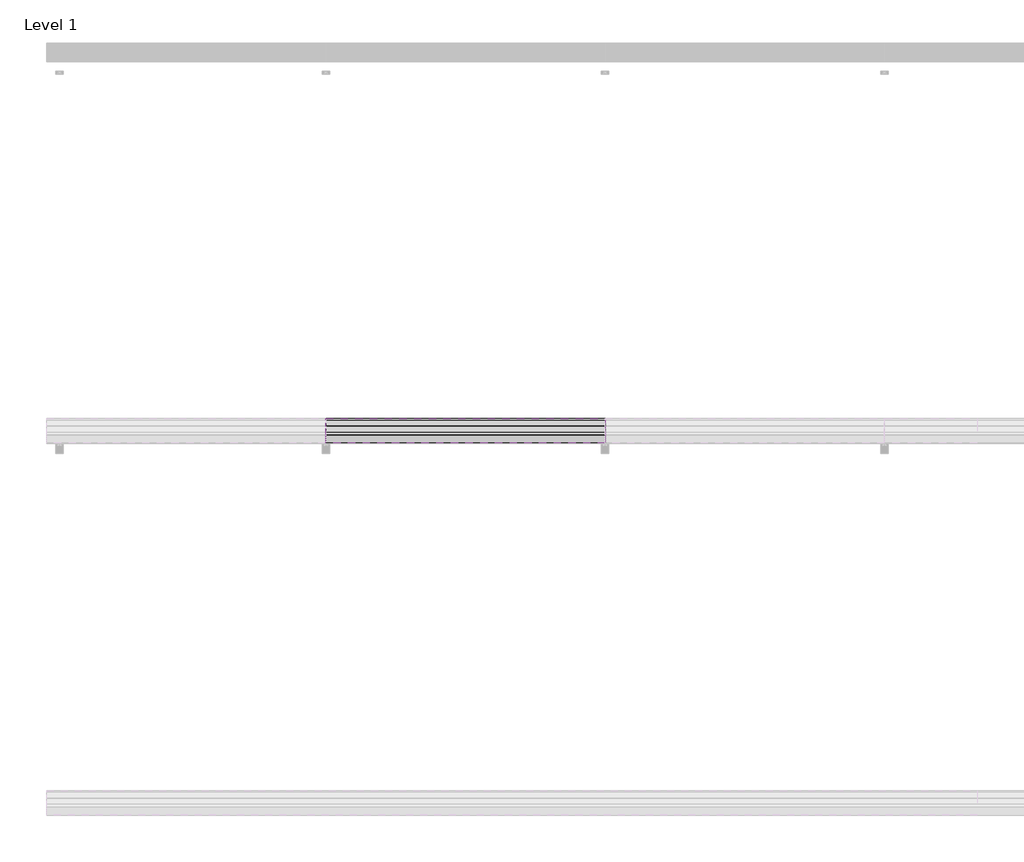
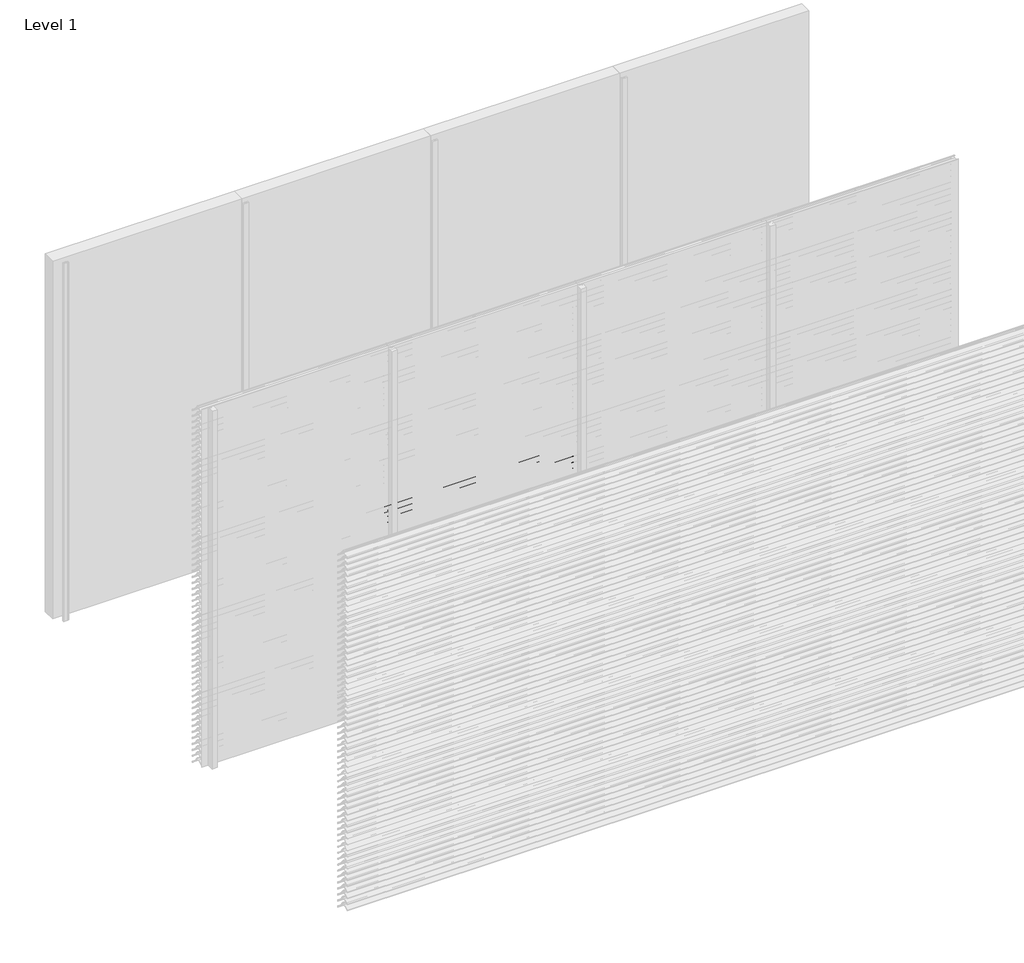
# One storey, part 80 of 173: 18 proxies.
"""IFC4 building model written with IfcOpenShell, lengths in millimetres."""

from ifc_helpers import new_model, si_unit, point, frame, frame_2d, origin, place, context, project, spatial, polyline, circle_curve, trimmed, segment, composite_curve, outline, extrude, element, save

model = new_model("IFC4")

# Units and contexts
model_context = context("Model", 3, world=origin())
ifc_project = project(units=[si_unit("LENGTHUNIT", "METRE", prefix="MILLI")], contexts=[model_context])

# Site, building, storey
site = spatial("IfcSite", under=ifc_project)
building = spatial("IfcBuilding", under=site)
storey = spatial("IfcBuildingStorey", under=building, Name="Level 1", Elevation=0.0)

# Proxies
placement = place(None, origin())
element("IfcBuildingElementProxy", 1, Name="Wall Sweeps", at=placement, inside=storey, context=model_context, shape_type="SweptSolid", body=[
    extrude(outline(composite_curve([segment(polyline([(-29998.0, 1609.1474905), (-29998.0, 1611.6227417)]), True, "CONTINUOUS"), segment(trimmed(circle_curve(frame_2d((-29951.2682172, 1566.2200208)), 65.1557103), [point((-29998.0, 1611.6227417))], [point((-29954.4014323, 1631.3003524))], False, "CARTESIAN"), True, "CONTINUOUS"), segment(polyline([(-29954.4014323, 1631.3003524), (-29934.8315836, 1631.3003524)]), True, "CONTINUOUS"), segment(trimmed(circle_curve(frame_2d((-29732.7329489, 1778.5533172)), 250.0545817), [point((-29934.8315836, 1631.3003524))], [point((-29941.4452143, 1640.8344583))], False, "CARTESIAN"), True, "CONTINUOUS"), segment(trimmed(circle_curve(frame_2d((-29953.2981792, 1635.1737835)), 13.1352966), [point((-29941.4452143, 1640.8344583))], [point((-29953.8171475, 1648.298824))], True, "CARTESIAN"), True, "CONTINUOUS"), segment(polyline([(-29953.8171475, 1648.298824), (-29953.8171475, 1650.0)]), True, "CONTINUOUS"), segment(trimmed(circle_curve(frame_2d((-29953.2981792, 1635.1737835)), 14.8352966), [point((-29953.8171475, 1650.0))], [point((-29939.9637661, 1641.6760487))], False, "CARTESIAN"), True, "CONTINUOUS"), segment(trimmed(circle_curve(frame_2d((-29732.7329489, 1778.5533172)), 248.3545817), [point((-29939.9637661, 1641.6760487))], [point((-29873.8787895, 1574.2059416))], True, "CARTESIAN"), True, "CONTINUOUS"), segment(trimmed(circle_curve(frame_2d((-29883.8147537, 1561.6649442)), 16.0), [point((-29873.8787895, 1574.2059416))], [point((-29867.8648347, 1560.4))], False, "CARTESIAN"), True, "CONTINUOUS"), segment(polyline([(-29867.8648347, 1560.4), (-29869.6712069, 1560.4)]), True, "CONTINUOUS"), segment(trimmed(circle_curve(frame_2d((-29883.8147537, 1561.6649442)), 14.2), [point((-29869.6712069, 1560.4))], [point((-29874.9518628, 1572.7594998))], True, "CARTESIAN"), True, "CONTINUOUS"), segment(trimmed(circle_curve(frame_2d((-29732.7329489, 1778.5533172)), 250.1545817), [point((-29874.9518628, 1572.7594998))], [point((-29933.7064024, 1629.6003524))], False, "CARTESIAN"), True, "CONTINUOUS"), segment(polyline([(-29933.7064024, 1629.6003524), (-29954.3602632, 1629.6003524)]), True, "CONTINUOUS"), segment(trimmed(circle_curve(frame_2d((-29951.2682172, 1566.2200208)), 63.4557103), [point((-29954.3602632, 1629.6003524))], [point((-29998.0, 1609.1474905))], True, "CARTESIAN"), True, "CONTINUOUS")], self_intersect=False)), frame((1500.0, 0.0, 0.0), z_axis=(1.0, 0.0, 0.0), x_axis=(0.0, 1.0, 0.0)), (0.0, 0.0, 1.0), 1500.0),
])
element("IfcBuildingElementProxy", 2, Name="Wall Sweeps", at=placement, inside=storey, context=model_context, shape_type="SweptSolid", body=[
    extrude(outline(composite_curve([segment(polyline([(-29998.0, 1559.1474905), (-29998.0, 1561.6227417)]), True, "CONTINUOUS"), segment(trimmed(circle_curve(frame_2d((-29951.2682172, 1516.2200208)), 65.1557103), [point((-29998.0, 1561.6227417))], [point((-29954.4014323, 1581.3003524))], False, "CARTESIAN"), True, "CONTINUOUS"), segment(polyline([(-29954.4014323, 1581.3003524), (-29934.8315836, 1581.3003524)]), True, "CONTINUOUS"), segment(trimmed(circle_curve(frame_2d((-29732.7329489, 1728.5533172)), 250.0545817), [point((-29934.8315836, 1581.3003524))], [point((-29941.4452143, 1590.8344583))], False, "CARTESIAN"), True, "CONTINUOUS"), segment(trimmed(circle_curve(frame_2d((-29953.2981792, 1585.1737835)), 13.1352966), [point((-29941.4452143, 1590.8344583))], [point((-29953.8171475, 1598.298824))], True, "CARTESIAN"), True, "CONTINUOUS"), segment(polyline([(-29953.8171475, 1598.298824), (-29953.8171475, 1600.0)]), True, "CONTINUOUS"), segment(trimmed(circle_curve(frame_2d((-29953.2981792, 1585.1737835)), 14.8352966), [point((-29953.8171475, 1600.0))], [point((-29939.9637661, 1591.6760487))], False, "CARTESIAN"), True, "CONTINUOUS"), segment(trimmed(circle_curve(frame_2d((-29732.7329489, 1728.5533172)), 248.3545817), [point((-29939.9637661, 1591.6760487))], [point((-29873.8787895, 1524.2059416))], True, "CARTESIAN"), True, "CONTINUOUS"), segment(trimmed(circle_curve(frame_2d((-29883.8147537, 1511.6649442)), 16.0), [point((-29873.8787895, 1524.2059416))], [point((-29867.8648347, 1510.4))], False, "CARTESIAN"), True, "CONTINUOUS"), segment(polyline([(-29867.8648347, 1510.4), (-29869.6712069, 1510.4)]), True, "CONTINUOUS"), segment(trimmed(circle_curve(frame_2d((-29883.8147537, 1511.6649442)), 14.2), [point((-29869.6712069, 1510.4))], [point((-29874.9518628, 1522.7594998))], True, "CARTESIAN"), True, "CONTINUOUS"), segment(trimmed(circle_curve(frame_2d((-29732.7329489, 1728.5533172)), 250.1545817), [point((-29874.9518628, 1522.7594998))], [point((-29933.7064024, 1579.6003524))], False, "CARTESIAN"), True, "CONTINUOUS"), segment(polyline([(-29933.7064024, 1579.6003524), (-29954.3602632, 1579.6003524)]), True, "CONTINUOUS"), segment(trimmed(circle_curve(frame_2d((-29951.2682172, 1516.2200208)), 63.4557103), [point((-29954.3602632, 1579.6003524))], [point((-29998.0, 1559.1474905))], True, "CARTESIAN"), True, "CONTINUOUS")], self_intersect=False)), frame((1500.0, 0.0, 0.0), z_axis=(1.0, 0.0, 0.0), x_axis=(0.0, 1.0, 0.0)), (0.0, 0.0, 1.0), 1500.0),
])
element("IfcBuildingElementProxy", 3, Name="Wall Sweeps", at=placement, inside=storey, context=model_context, shape_type="SweptSolid", body=[
    extrude(outline(composite_curve([segment(polyline([(-29998.0, 1509.1474905), (-29998.0, 1511.6227417)]), True, "CONTINUOUS"), segment(trimmed(circle_curve(frame_2d((-29951.2682172, 1466.2200208)), 65.1557103), [point((-29998.0, 1511.6227417))], [point((-29954.4014323, 1531.3003524))], False, "CARTESIAN"), True, "CONTINUOUS"), segment(polyline([(-29954.4014323, 1531.3003524), (-29934.8315836, 1531.3003524)]), True, "CONTINUOUS"), segment(trimmed(circle_curve(frame_2d((-29732.7329489, 1678.5533172)), 250.0545817), [point((-29934.8315836, 1531.3003524))], [point((-29941.4452143, 1540.8344583))], False, "CARTESIAN"), True, "CONTINUOUS"), segment(trimmed(circle_curve(frame_2d((-29953.2981792, 1535.1737835)), 13.1352966), [point((-29941.4452143, 1540.8344583))], [point((-29953.8171475, 1548.298824))], True, "CARTESIAN"), True, "CONTINUOUS"), segment(polyline([(-29953.8171475, 1548.298824), (-29953.8171475, 1550.0)]), True, "CONTINUOUS"), segment(trimmed(circle_curve(frame_2d((-29953.2981792, 1535.1737835)), 14.8352966), [point((-29953.8171475, 1550.0))], [point((-29939.9637661, 1541.6760487))], False, "CARTESIAN"), True, "CONTINUOUS"), segment(trimmed(circle_curve(frame_2d((-29732.7329489, 1678.5533172)), 248.3545817), [point((-29939.9637661, 1541.6760487))], [point((-29873.8787895, 1474.2059416))], True, "CARTESIAN"), True, "CONTINUOUS"), segment(trimmed(circle_curve(frame_2d((-29883.8147537, 1461.6649442)), 16.0), [point((-29873.8787895, 1474.2059416))], [point((-29867.8648347, 1460.4))], False, "CARTESIAN"), True, "CONTINUOUS"), segment(polyline([(-29867.8648347, 1460.4), (-29869.6712069, 1460.4)]), True, "CONTINUOUS"), segment(trimmed(circle_curve(frame_2d((-29883.8147537, 1461.6649442)), 14.2), [point((-29869.6712069, 1460.4))], [point((-29874.9518628, 1472.7594998))], True, "CARTESIAN"), True, "CONTINUOUS"), segment(trimmed(circle_curve(frame_2d((-29732.7329489, 1678.5533172)), 250.1545817), [point((-29874.9518628, 1472.7594998))], [point((-29933.7064024, 1529.6003524))], False, "CARTESIAN"), True, "CONTINUOUS"), segment(polyline([(-29933.7064024, 1529.6003524), (-29954.3602632, 1529.6003524)]), True, "CONTINUOUS"), segment(trimmed(circle_curve(frame_2d((-29951.2682172, 1466.2200208)), 63.4557103), [point((-29954.3602632, 1529.6003524))], [point((-29998.0, 1509.1474905))], True, "CARTESIAN"), True, "CONTINUOUS")], self_intersect=False)), frame((1500.0, 0.0, 0.0), z_axis=(1.0, 0.0, 0.0), x_axis=(0.0, 1.0, 0.0)), (0.0, 0.0, 1.0), 1500.0),
])
element("IfcBuildingElementProxy", 4, Name="Wall Sweeps", at=placement, inside=storey, context=model_context, shape_type="SweptSolid", body=[
    extrude(outline(composite_curve([segment(polyline([(-29998.0, 1459.1474905), (-29998.0, 1461.6227417)]), True, "CONTINUOUS"), segment(trimmed(circle_curve(frame_2d((-29951.2682172, 1416.2200208)), 65.1557103), [point((-29998.0, 1461.6227417))], [point((-29954.4014323, 1481.3003524))], False, "CARTESIAN"), True, "CONTINUOUS"), segment(polyline([(-29954.4014323, 1481.3003524), (-29934.8315836, 1481.3003524)]), True, "CONTINUOUS"), segment(trimmed(circle_curve(frame_2d((-29732.7329489, 1628.5533172)), 250.0545817), [point((-29934.8315836, 1481.3003524))], [point((-29941.4452143, 1490.8344583))], False, "CARTESIAN"), True, "CONTINUOUS"), segment(trimmed(circle_curve(frame_2d((-29953.2981792, 1485.1737835)), 13.1352966), [point((-29941.4452143, 1490.8344583))], [point((-29953.8171475, 1498.298824))], True, "CARTESIAN"), True, "CONTINUOUS"), segment(polyline([(-29953.8171475, 1498.298824), (-29953.8171475, 1500.0)]), True, "CONTINUOUS"), segment(trimmed(circle_curve(frame_2d((-29953.2981792, 1485.1737835)), 14.8352966), [point((-29953.8171475, 1500.0))], [point((-29939.9637661, 1491.6760487))], False, "CARTESIAN"), True, "CONTINUOUS"), segment(trimmed(circle_curve(frame_2d((-29732.7329489, 1628.5533172)), 248.3545817), [point((-29939.9637661, 1491.6760487))], [point((-29873.8787895, 1424.2059416))], True, "CARTESIAN"), True, "CONTINUOUS"), segment(trimmed(circle_curve(frame_2d((-29883.8147537, 1411.6649442)), 16.0), [point((-29873.8787895, 1424.2059416))], [point((-29867.8648347, 1410.4))], False, "CARTESIAN"), True, "CONTINUOUS"), segment(polyline([(-29867.8648347, 1410.4), (-29869.6712069, 1410.4)]), True, "CONTINUOUS"), segment(trimmed(circle_curve(frame_2d((-29883.8147537, 1411.6649442)), 14.2), [point((-29869.6712069, 1410.4))], [point((-29874.9518628, 1422.7594998))], True, "CARTESIAN"), True, "CONTINUOUS"), segment(trimmed(circle_curve(frame_2d((-29732.7329489, 1628.5533172)), 250.1545817), [point((-29874.9518628, 1422.7594998))], [point((-29933.7064024, 1479.6003524))], False, "CARTESIAN"), True, "CONTINUOUS"), segment(polyline([(-29933.7064024, 1479.6003524), (-29954.3602632, 1479.6003524)]), True, "CONTINUOUS"), segment(trimmed(circle_curve(frame_2d((-29951.2682172, 1416.2200208)), 63.4557103), [point((-29954.3602632, 1479.6003524))], [point((-29998.0, 1459.1474905))], True, "CARTESIAN"), True, "CONTINUOUS")], self_intersect=False)), frame((1500.0, 0.0, 0.0), z_axis=(1.0, 0.0, 0.0), x_axis=(0.0, 1.0, 0.0)), (0.0, 0.0, 1.0), 1500.0),
])
element("IfcBuildingElementProxy", 5, Name="Wall Sweeps", at=placement, inside=storey, context=model_context, shape_type="SweptSolid", body=[
    extrude(outline(composite_curve([segment(polyline([(-29998.0, 1409.1474905), (-29998.0, 1411.6227417)]), True, "CONTINUOUS"), segment(trimmed(circle_curve(frame_2d((-29951.2682172, 1366.2200208)), 65.1557103), [point((-29998.0, 1411.6227417))], [point((-29954.4014323, 1431.3003524))], False, "CARTESIAN"), True, "CONTINUOUS"), segment(polyline([(-29954.4014323, 1431.3003524), (-29934.8315836, 1431.3003524)]), True, "CONTINUOUS"), segment(trimmed(circle_curve(frame_2d((-29732.7329489, 1578.5533172)), 250.0545817), [point((-29934.8315836, 1431.3003524))], [point((-29941.4452143, 1440.8344583))], False, "CARTESIAN"), True, "CONTINUOUS"), segment(trimmed(circle_curve(frame_2d((-29953.2981792, 1435.1737835)), 13.1352966), [point((-29941.4452143, 1440.8344583))], [point((-29953.8171475, 1448.298824))], True, "CARTESIAN"), True, "CONTINUOUS"), segment(polyline([(-29953.8171475, 1448.298824), (-29953.8171475, 1450.0)]), True, "CONTINUOUS"), segment(trimmed(circle_curve(frame_2d((-29953.2981792, 1435.1737835)), 14.8352966), [point((-29953.8171475, 1450.0))], [point((-29939.9637661, 1441.6760487))], False, "CARTESIAN"), True, "CONTINUOUS"), segment(trimmed(circle_curve(frame_2d((-29732.7329489, 1578.5533172)), 248.3545817), [point((-29939.9637661, 1441.6760487))], [point((-29873.8787895, 1374.2059416))], True, "CARTESIAN"), True, "CONTINUOUS"), segment(trimmed(circle_curve(frame_2d((-29883.8147537, 1361.6649442)), 16.0), [point((-29873.8787895, 1374.2059416))], [point((-29867.8648347, 1360.4))], False, "CARTESIAN"), True, "CONTINUOUS"), segment(polyline([(-29867.8648347, 1360.4), (-29869.6712069, 1360.4)]), True, "CONTINUOUS"), segment(trimmed(circle_curve(frame_2d((-29883.8147537, 1361.6649442)), 14.2), [point((-29869.6712069, 1360.4))], [point((-29874.9518628, 1372.7594998))], True, "CARTESIAN"), True, "CONTINUOUS"), segment(trimmed(circle_curve(frame_2d((-29732.7329489, 1578.5533172)), 250.1545817), [point((-29874.9518628, 1372.7594998))], [point((-29933.7064024, 1429.6003524))], False, "CARTESIAN"), True, "CONTINUOUS"), segment(polyline([(-29933.7064024, 1429.6003524), (-29954.3602632, 1429.6003524)]), True, "CONTINUOUS"), segment(trimmed(circle_curve(frame_2d((-29951.2682172, 1366.2200208)), 63.4557103), [point((-29954.3602632, 1429.6003524))], [point((-29998.0, 1409.1474905))], True, "CARTESIAN"), True, "CONTINUOUS")], self_intersect=False)), frame((1500.0, 0.0, 0.0), z_axis=(1.0, 0.0, 0.0), x_axis=(0.0, 1.0, 0.0)), (0.0, 0.0, 1.0), 1500.0),
])
element("IfcBuildingElementProxy", 6, Name="Wall Sweeps", at=placement, inside=storey, context=model_context, shape_type="SweptSolid", body=[
    extrude(outline(composite_curve([segment(polyline([(-29998.0, 1359.1474905), (-29998.0, 1361.6227417)]), True, "CONTINUOUS"), segment(trimmed(circle_curve(frame_2d((-29951.2682172, 1316.2200208)), 65.1557103), [point((-29998.0, 1361.6227417))], [point((-29954.4014323, 1381.3003524))], False, "CARTESIAN"), True, "CONTINUOUS"), segment(polyline([(-29954.4014323, 1381.3003524), (-29934.8315836, 1381.3003524)]), True, "CONTINUOUS"), segment(trimmed(circle_curve(frame_2d((-29732.7329489, 1528.5533172)), 250.0545817), [point((-29934.8315836, 1381.3003524))], [point((-29941.4452143, 1390.8344583))], False, "CARTESIAN"), True, "CONTINUOUS"), segment(trimmed(circle_curve(frame_2d((-29953.2981792, 1385.1737835)), 13.1352966), [point((-29941.4452143, 1390.8344583))], [point((-29953.8171475, 1398.298824))], True, "CARTESIAN"), True, "CONTINUOUS"), segment(polyline([(-29953.8171475, 1398.298824), (-29953.8171475, 1400.0)]), True, "CONTINUOUS"), segment(trimmed(circle_curve(frame_2d((-29953.2981792, 1385.1737835)), 14.8352966), [point((-29953.8171475, 1400.0))], [point((-29939.9637661, 1391.6760487))], False, "CARTESIAN"), True, "CONTINUOUS"), segment(trimmed(circle_curve(frame_2d((-29732.7329489, 1528.5533172)), 248.3545817), [point((-29939.9637661, 1391.6760487))], [point((-29873.8787895, 1324.2059416))], True, "CARTESIAN"), True, "CONTINUOUS"), segment(trimmed(circle_curve(frame_2d((-29883.8147537, 1311.6649442)), 16.0), [point((-29873.8787895, 1324.2059416))], [point((-29867.8648347, 1310.4))], False, "CARTESIAN"), True, "CONTINUOUS"), segment(polyline([(-29867.8648347, 1310.4), (-29869.6712069, 1310.4)]), True, "CONTINUOUS"), segment(trimmed(circle_curve(frame_2d((-29883.8147537, 1311.6649442)), 14.2), [point((-29869.6712069, 1310.4))], [point((-29874.9518628, 1322.7594998))], True, "CARTESIAN"), True, "CONTINUOUS"), segment(trimmed(circle_curve(frame_2d((-29732.7329489, 1528.5533172)), 250.1545817), [point((-29874.9518628, 1322.7594998))], [point((-29933.7064024, 1379.6003524))], False, "CARTESIAN"), True, "CONTINUOUS"), segment(polyline([(-29933.7064024, 1379.6003524), (-29954.3602632, 1379.6003524)]), True, "CONTINUOUS"), segment(trimmed(circle_curve(frame_2d((-29951.2682172, 1316.2200208)), 63.4557103), [point((-29954.3602632, 1379.6003524))], [point((-29998.0, 1359.1474905))], True, "CARTESIAN"), True, "CONTINUOUS")], self_intersect=False)), frame((1500.0, 0.0, 0.0), z_axis=(1.0, 0.0, 0.0), x_axis=(0.0, 1.0, 0.0)), (0.0, 0.0, 1.0), 1500.0),
])
element("IfcBuildingElementProxy", 7, Name="Wall Sweeps", at=placement, inside=storey, context=model_context, shape_type="SweptSolid", body=[
    extrude(outline(composite_curve([segment(polyline([(-29998.0, 1309.1474905), (-29998.0, 1311.6227417)]), True, "CONTINUOUS"), segment(trimmed(circle_curve(frame_2d((-29951.2682172, 1266.2200208)), 65.1557103), [point((-29998.0, 1311.6227417))], [point((-29954.4014323, 1331.3003524))], False, "CARTESIAN"), True, "CONTINUOUS"), segment(polyline([(-29954.4014323, 1331.3003524), (-29934.8315836, 1331.3003524)]), True, "CONTINUOUS"), segment(trimmed(circle_curve(frame_2d((-29732.7329489, 1478.5533172)), 250.0545817), [point((-29934.8315836, 1331.3003524))], [point((-29941.4452143, 1340.8344583))], False, "CARTESIAN"), True, "CONTINUOUS"), segment(trimmed(circle_curve(frame_2d((-29953.2981792, 1335.1737835)), 13.1352966), [point((-29941.4452143, 1340.8344583))], [point((-29953.8171475, 1348.298824))], True, "CARTESIAN"), True, "CONTINUOUS"), segment(polyline([(-29953.8171475, 1348.298824), (-29953.8171475, 1350.0)]), True, "CONTINUOUS"), segment(trimmed(circle_curve(frame_2d((-29953.2981792, 1335.1737835)), 14.8352966), [point((-29953.8171475, 1350.0))], [point((-29939.9637661, 1341.6760487))], False, "CARTESIAN"), True, "CONTINUOUS"), segment(trimmed(circle_curve(frame_2d((-29732.7329489, 1478.5533172)), 248.3545817), [point((-29939.9637661, 1341.6760487))], [point((-29873.8787895, 1274.2059416))], True, "CARTESIAN"), True, "CONTINUOUS"), segment(trimmed(circle_curve(frame_2d((-29883.8147537, 1261.6649442)), 16.0), [point((-29873.8787895, 1274.2059416))], [point((-29867.8648347, 1260.4))], False, "CARTESIAN"), True, "CONTINUOUS"), segment(polyline([(-29867.8648347, 1260.4), (-29869.6712069, 1260.4)]), True, "CONTINUOUS"), segment(trimmed(circle_curve(frame_2d((-29883.8147537, 1261.6649442)), 14.2), [point((-29869.6712069, 1260.4))], [point((-29874.9518628, 1272.7594998))], True, "CARTESIAN"), True, "CONTINUOUS"), segment(trimmed(circle_curve(frame_2d((-29732.7329489, 1478.5533172)), 250.1545817), [point((-29874.9518628, 1272.7594998))], [point((-29933.7064024, 1329.6003524))], False, "CARTESIAN"), True, "CONTINUOUS"), segment(polyline([(-29933.7064024, 1329.6003524), (-29954.3602632, 1329.6003524)]), True, "CONTINUOUS"), segment(trimmed(circle_curve(frame_2d((-29951.2682172, 1266.2200208)), 63.4557103), [point((-29954.3602632, 1329.6003524))], [point((-29998.0, 1309.1474905))], True, "CARTESIAN"), True, "CONTINUOUS")], self_intersect=False)), frame((1500.0, 0.0, 0.0), z_axis=(1.0, 0.0, 0.0), x_axis=(0.0, 1.0, 0.0)), (0.0, 0.0, 1.0), 1500.0),
])
element("IfcBuildingElementProxy", 8, Name="Wall Sweeps", at=placement, inside=storey, context=model_context, shape_type="SweptSolid", body=[
    extrude(outline(composite_curve([segment(polyline([(-29998.0, 1259.1474905), (-29998.0, 1261.6227417)]), True, "CONTINUOUS"), segment(trimmed(circle_curve(frame_2d((-29951.2682172, 1216.2200208)), 65.1557103), [point((-29998.0, 1261.6227417))], [point((-29954.4014323, 1281.3003524))], False, "CARTESIAN"), True, "CONTINUOUS"), segment(polyline([(-29954.4014323, 1281.3003524), (-29934.8315836, 1281.3003524)]), True, "CONTINUOUS"), segment(trimmed(circle_curve(frame_2d((-29732.7329489, 1428.5533172)), 250.0545817), [point((-29934.8315836, 1281.3003524))], [point((-29941.4452143, 1290.8344583))], False, "CARTESIAN"), True, "CONTINUOUS"), segment(trimmed(circle_curve(frame_2d((-29953.2981792, 1285.1737835)), 13.1352966), [point((-29941.4452143, 1290.8344583))], [point((-29953.8171475, 1298.298824))], True, "CARTESIAN"), True, "CONTINUOUS"), segment(polyline([(-29953.8171475, 1298.298824), (-29953.8171475, 1300.0)]), True, "CONTINUOUS"), segment(trimmed(circle_curve(frame_2d((-29953.2981792, 1285.1737835)), 14.8352966), [point((-29953.8171475, 1300.0))], [point((-29939.9637661, 1291.6760487))], False, "CARTESIAN"), True, "CONTINUOUS"), segment(trimmed(circle_curve(frame_2d((-29732.7329489, 1428.5533172)), 248.3545817), [point((-29939.9637661, 1291.6760487))], [point((-29873.8787895, 1224.2059416))], True, "CARTESIAN"), True, "CONTINUOUS"), segment(trimmed(circle_curve(frame_2d((-29883.8147537, 1211.6649442)), 16.0), [point((-29873.8787895, 1224.2059416))], [point((-29867.8648347, 1210.4))], False, "CARTESIAN"), True, "CONTINUOUS"), segment(polyline([(-29867.8648347, 1210.4), (-29869.6712069, 1210.4)]), True, "CONTINUOUS"), segment(trimmed(circle_curve(frame_2d((-29883.8147537, 1211.6649442)), 14.2), [point((-29869.6712069, 1210.4))], [point((-29874.9518628, 1222.7594998))], True, "CARTESIAN"), True, "CONTINUOUS"), segment(trimmed(circle_curve(frame_2d((-29732.7329489, 1428.5533172)), 250.1545817), [point((-29874.9518628, 1222.7594998))], [point((-29933.7064024, 1279.6003524))], False, "CARTESIAN"), True, "CONTINUOUS"), segment(polyline([(-29933.7064024, 1279.6003524), (-29954.3602632, 1279.6003524)]), True, "CONTINUOUS"), segment(trimmed(circle_curve(frame_2d((-29951.2682172, 1216.2200208)), 63.4557103), [point((-29954.3602632, 1279.6003524))], [point((-29998.0, 1259.1474905))], True, "CARTESIAN"), True, "CONTINUOUS")], self_intersect=False)), frame((1500.0, 0.0, 0.0), z_axis=(1.0, 0.0, 0.0), x_axis=(0.0, 1.0, 0.0)), (0.0, 0.0, 1.0), 1500.0),
])
element("IfcBuildingElementProxy", 9, Name="Wall Sweeps", at=placement, inside=storey, context=model_context, shape_type="SweptSolid", body=[
    extrude(outline(composite_curve([segment(polyline([(-29998.0, 1209.1474905), (-29998.0, 1211.6227417)]), True, "CONTINUOUS"), segment(trimmed(circle_curve(frame_2d((-29951.2682172, 1166.2200208)), 65.1557103), [point((-29998.0, 1211.6227417))], [point((-29954.4014323, 1231.3003524))], False, "CARTESIAN"), True, "CONTINUOUS"), segment(polyline([(-29954.4014323, 1231.3003524), (-29934.8315836, 1231.3003524)]), True, "CONTINUOUS"), segment(trimmed(circle_curve(frame_2d((-29732.7329489, 1378.5533172)), 250.0545817), [point((-29934.8315836, 1231.3003524))], [point((-29941.4452143, 1240.8344583))], False, "CARTESIAN"), True, "CONTINUOUS"), segment(trimmed(circle_curve(frame_2d((-29953.2981792, 1235.1737835)), 13.1352966), [point((-29941.4452143, 1240.8344583))], [point((-29953.8171475, 1248.298824))], True, "CARTESIAN"), True, "CONTINUOUS"), segment(polyline([(-29953.8171475, 1248.298824), (-29953.8171475, 1250.0)]), True, "CONTINUOUS"), segment(trimmed(circle_curve(frame_2d((-29953.2981792, 1235.1737835)), 14.8352966), [point((-29953.8171475, 1250.0))], [point((-29939.9637661, 1241.6760487))], False, "CARTESIAN"), True, "CONTINUOUS"), segment(trimmed(circle_curve(frame_2d((-29732.7329489, 1378.5533172)), 248.3545817), [point((-29939.9637661, 1241.6760487))], [point((-29873.8787895, 1174.2059416))], True, "CARTESIAN"), True, "CONTINUOUS"), segment(trimmed(circle_curve(frame_2d((-29883.8147537, 1161.6649442)), 16.0), [point((-29873.8787895, 1174.2059416))], [point((-29867.8648347, 1160.4))], False, "CARTESIAN"), True, "CONTINUOUS"), segment(polyline([(-29867.8648347, 1160.4), (-29869.6712069, 1160.4)]), True, "CONTINUOUS"), segment(trimmed(circle_curve(frame_2d((-29883.8147537, 1161.6649442)), 14.2), [point((-29869.6712069, 1160.4))], [point((-29874.9518628, 1172.7594998))], True, "CARTESIAN"), True, "CONTINUOUS"), segment(trimmed(circle_curve(frame_2d((-29732.7329489, 1378.5533172)), 250.1545817), [point((-29874.9518628, 1172.7594998))], [point((-29933.7064024, 1229.6003524))], False, "CARTESIAN"), True, "CONTINUOUS"), segment(polyline([(-29933.7064024, 1229.6003524), (-29954.3602632, 1229.6003524)]), True, "CONTINUOUS"), segment(trimmed(circle_curve(frame_2d((-29951.2682172, 1166.2200208)), 63.4557103), [point((-29954.3602632, 1229.6003524))], [point((-29998.0, 1209.1474905))], True, "CARTESIAN"), True, "CONTINUOUS")], self_intersect=False)), frame((1500.0, 0.0, 0.0), z_axis=(1.0, 0.0, 0.0), x_axis=(0.0, 1.0, 0.0)), (0.0, 0.0, 1.0), 1500.0),
])
element("IfcBuildingElementProxy", 10, Name="Wall Sweeps", at=placement, inside=storey, context=model_context, shape_type="SweptSolid", body=[
    extrude(outline(composite_curve([segment(polyline([(-29998.0, 1159.1474905), (-29998.0, 1161.6227417)]), True, "CONTINUOUS"), segment(trimmed(circle_curve(frame_2d((-29951.2682172, 1116.2200208)), 65.1557103), [point((-29998.0, 1161.6227417))], [point((-29954.4014323, 1181.3003524))], False, "CARTESIAN"), True, "CONTINUOUS"), segment(polyline([(-29954.4014323, 1181.3003524), (-29934.8315836, 1181.3003524)]), True, "CONTINUOUS"), segment(trimmed(circle_curve(frame_2d((-29732.7329489, 1328.5533172)), 250.0545817), [point((-29934.8315836, 1181.3003524))], [point((-29941.4452143, 1190.8344583))], False, "CARTESIAN"), True, "CONTINUOUS"), segment(trimmed(circle_curve(frame_2d((-29953.2981792, 1185.1737835)), 13.1352966), [point((-29941.4452143, 1190.8344583))], [point((-29953.8171475, 1198.298824))], True, "CARTESIAN"), True, "CONTINUOUS"), segment(polyline([(-29953.8171475, 1198.298824), (-29953.8171475, 1200.0)]), True, "CONTINUOUS"), segment(trimmed(circle_curve(frame_2d((-29953.2981792, 1185.1737835)), 14.8352966), [point((-29953.8171475, 1200.0))], [point((-29939.9637661, 1191.6760487))], False, "CARTESIAN"), True, "CONTINUOUS"), segment(trimmed(circle_curve(frame_2d((-29732.7329489, 1328.5533172)), 248.3545817), [point((-29939.9637661, 1191.6760487))], [point((-29873.8787895, 1124.2059416))], True, "CARTESIAN"), True, "CONTINUOUS"), segment(trimmed(circle_curve(frame_2d((-29883.8147537, 1111.6649442)), 16.0), [point((-29873.8787895, 1124.2059416))], [point((-29867.8648347, 1110.4))], False, "CARTESIAN"), True, "CONTINUOUS"), segment(polyline([(-29867.8648347, 1110.4), (-29869.6712069, 1110.4)]), True, "CONTINUOUS"), segment(trimmed(circle_curve(frame_2d((-29883.8147537, 1111.6649442)), 14.2), [point((-29869.6712069, 1110.4))], [point((-29874.9518628, 1122.7594998))], True, "CARTESIAN"), True, "CONTINUOUS"), segment(trimmed(circle_curve(frame_2d((-29732.7329489, 1328.5533172)), 250.1545817), [point((-29874.9518628, 1122.7594998))], [point((-29933.7064024, 1179.6003524))], False, "CARTESIAN"), True, "CONTINUOUS"), segment(polyline([(-29933.7064024, 1179.6003524), (-29954.3602632, 1179.6003524)]), True, "CONTINUOUS"), segment(trimmed(circle_curve(frame_2d((-29951.2682172, 1116.2200208)), 63.4557103), [point((-29954.3602632, 1179.6003524))], [point((-29998.0, 1159.1474905))], True, "CARTESIAN"), True, "CONTINUOUS")], self_intersect=False)), frame((1500.0, 0.0, 0.0), z_axis=(1.0, 0.0, 0.0), x_axis=(0.0, 1.0, 0.0)), (0.0, 0.0, 1.0), 1500.0),
])
element("IfcBuildingElementProxy", 11, Name="Wall Sweeps", at=placement, inside=storey, context=model_context, shape_type="SweptSolid", body=[
    extrude(outline(composite_curve([segment(polyline([(-29998.0, 1109.1474905), (-29998.0, 1111.6227417)]), True, "CONTINUOUS"), segment(trimmed(circle_curve(frame_2d((-29951.2682172, 1066.2200208)), 65.1557103), [point((-29998.0, 1111.6227417))], [point((-29954.4014323, 1131.3003524))], False, "CARTESIAN"), True, "CONTINUOUS"), segment(polyline([(-29954.4014323, 1131.3003524), (-29934.8315836, 1131.3003524)]), True, "CONTINUOUS"), segment(trimmed(circle_curve(frame_2d((-29732.7329489, 1278.5533172)), 250.0545817), [point((-29934.8315836, 1131.3003524))], [point((-29941.4452143, 1140.8344583))], False, "CARTESIAN"), True, "CONTINUOUS"), segment(trimmed(circle_curve(frame_2d((-29953.2981792, 1135.1737835)), 13.1352966), [point((-29941.4452143, 1140.8344583))], [point((-29953.8171475, 1148.298824))], True, "CARTESIAN"), True, "CONTINUOUS"), segment(polyline([(-29953.8171475, 1148.298824), (-29953.8171475, 1150.0)]), True, "CONTINUOUS"), segment(trimmed(circle_curve(frame_2d((-29953.2981792, 1135.1737835)), 14.8352966), [point((-29953.8171475, 1150.0))], [point((-29939.9637661, 1141.6760487))], False, "CARTESIAN"), True, "CONTINUOUS"), segment(trimmed(circle_curve(frame_2d((-29732.7329489, 1278.5533172)), 248.3545817), [point((-29939.9637661, 1141.6760487))], [point((-29873.8787895, 1074.2059416))], True, "CARTESIAN"), True, "CONTINUOUS"), segment(trimmed(circle_curve(frame_2d((-29883.8147537, 1061.6649442)), 16.0), [point((-29873.8787895, 1074.2059416))], [point((-29867.8648347, 1060.4))], False, "CARTESIAN"), True, "CONTINUOUS"), segment(polyline([(-29867.8648347, 1060.4), (-29869.6712069, 1060.4)]), True, "CONTINUOUS"), segment(trimmed(circle_curve(frame_2d((-29883.8147537, 1061.6649442)), 14.2), [point((-29869.6712069, 1060.4))], [point((-29874.9518628, 1072.7594998))], True, "CARTESIAN"), True, "CONTINUOUS"), segment(trimmed(circle_curve(frame_2d((-29732.7329489, 1278.5533172)), 250.1545817), [point((-29874.9518628, 1072.7594998))], [point((-29933.7064024, 1129.6003524))], False, "CARTESIAN"), True, "CONTINUOUS"), segment(polyline([(-29933.7064024, 1129.6003524), (-29954.3602632, 1129.6003524)]), True, "CONTINUOUS"), segment(trimmed(circle_curve(frame_2d((-29951.2682172, 1066.2200208)), 63.4557103), [point((-29954.3602632, 1129.6003524))], [point((-29998.0, 1109.1474905))], True, "CARTESIAN"), True, "CONTINUOUS")], self_intersect=False)), frame((1500.0, 0.0, 0.0), z_axis=(1.0, 0.0, 0.0), x_axis=(0.0, 1.0, 0.0)), (0.0, 0.0, 1.0), 1500.0),
])
element("IfcBuildingElementProxy", 12, Name="Wall Sweeps", at=placement, inside=storey, context=model_context, shape_type="SweptSolid", body=[
    extrude(outline(composite_curve([segment(polyline([(-29998.0, 1059.1474905), (-29998.0, 1061.6227417)]), True, "CONTINUOUS"), segment(trimmed(circle_curve(frame_2d((-29951.2682172, 1016.2200208)), 65.1557103), [point((-29998.0, 1061.6227417))], [point((-29954.4014323, 1081.3003524))], False, "CARTESIAN"), True, "CONTINUOUS"), segment(polyline([(-29954.4014323, 1081.3003524), (-29934.8315836, 1081.3003524)]), True, "CONTINUOUS"), segment(trimmed(circle_curve(frame_2d((-29732.7329489, 1228.5533172)), 250.0545817), [point((-29934.8315836, 1081.3003524))], [point((-29941.4452143, 1090.8344583))], False, "CARTESIAN"), True, "CONTINUOUS"), segment(trimmed(circle_curve(frame_2d((-29953.2981792, 1085.1737835)), 13.1352966), [point((-29941.4452143, 1090.8344583))], [point((-29953.8171475, 1098.298824))], True, "CARTESIAN"), True, "CONTINUOUS"), segment(polyline([(-29953.8171475, 1098.298824), (-29953.8171475, 1100.0)]), True, "CONTINUOUS"), segment(trimmed(circle_curve(frame_2d((-29953.2981792, 1085.1737835)), 14.8352966), [point((-29953.8171475, 1100.0))], [point((-29939.9637661, 1091.6760487))], False, "CARTESIAN"), True, "CONTINUOUS"), segment(trimmed(circle_curve(frame_2d((-29732.7329489, 1228.5533172)), 248.3545817), [point((-29939.9637661, 1091.6760487))], [point((-29873.8787895, 1024.2059416))], True, "CARTESIAN"), True, "CONTINUOUS"), segment(trimmed(circle_curve(frame_2d((-29883.8147537, 1011.6649442)), 16.0), [point((-29873.8787895, 1024.2059416))], [point((-29867.8648347, 1010.4))], False, "CARTESIAN"), True, "CONTINUOUS"), segment(polyline([(-29867.8648347, 1010.4), (-29869.6712069, 1010.4)]), True, "CONTINUOUS"), segment(trimmed(circle_curve(frame_2d((-29883.8147537, 1011.6649442)), 14.2), [point((-29869.6712069, 1010.4))], [point((-29874.9518628, 1022.7594998))], True, "CARTESIAN"), True, "CONTINUOUS"), segment(trimmed(circle_curve(frame_2d((-29732.7329489, 1228.5533172)), 250.1545817), [point((-29874.9518628, 1022.7594998))], [point((-29933.7064024, 1079.6003524))], False, "CARTESIAN"), True, "CONTINUOUS"), segment(polyline([(-29933.7064024, 1079.6003524), (-29954.3602632, 1079.6003524)]), True, "CONTINUOUS"), segment(trimmed(circle_curve(frame_2d((-29951.2682172, 1016.2200208)), 63.4557103), [point((-29954.3602632, 1079.6003524))], [point((-29998.0, 1059.1474905))], True, "CARTESIAN"), True, "CONTINUOUS")], self_intersect=False)), frame((1500.0, 0.0, 0.0), z_axis=(1.0, 0.0, 0.0), x_axis=(0.0, 1.0, 0.0)), (0.0, 0.0, 1.0), 1500.0),
])
element("IfcBuildingElementProxy", 13, Name="Wall Sweeps", at=placement, inside=storey, context=model_context, shape_type="SweptSolid", body=[
    extrude(outline(composite_curve([segment(polyline([(-29998.0, 1009.1474905), (-29998.0, 1011.6227417)]), True, "CONTINUOUS"), segment(trimmed(circle_curve(frame_2d((-29951.2682172, 966.2200208)), 65.1557103), [point((-29998.0, 1011.6227417))], [point((-29954.4014323, 1031.3003524))], False, "CARTESIAN"), True, "CONTINUOUS"), segment(polyline([(-29954.4014323, 1031.3003524), (-29934.8315836, 1031.3003524)]), True, "CONTINUOUS"), segment(trimmed(circle_curve(frame_2d((-29732.7329489, 1178.5533172)), 250.0545817), [point((-29934.8315836, 1031.3003524))], [point((-29941.4452143, 1040.8344583))], False, "CARTESIAN"), True, "CONTINUOUS"), segment(trimmed(circle_curve(frame_2d((-29953.2981792, 1035.1737835)), 13.1352966), [point((-29941.4452143, 1040.8344583))], [point((-29953.8171475, 1048.298824))], True, "CARTESIAN"), True, "CONTINUOUS"), segment(polyline([(-29953.8171475, 1048.298824), (-29953.8171475, 1050.0)]), True, "CONTINUOUS"), segment(trimmed(circle_curve(frame_2d((-29953.2981792, 1035.1737835)), 14.8352966), [point((-29953.8171475, 1050.0))], [point((-29939.9637661, 1041.6760487))], False, "CARTESIAN"), True, "CONTINUOUS"), segment(trimmed(circle_curve(frame_2d((-29732.7329489, 1178.5533172)), 248.3545817), [point((-29939.9637661, 1041.6760487))], [point((-29873.8787895, 974.2059416))], True, "CARTESIAN"), True, "CONTINUOUS"), segment(trimmed(circle_curve(frame_2d((-29883.8147537, 961.6649442)), 16.0), [point((-29873.8787895, 974.2059416))], [point((-29867.8648347, 960.4))], False, "CARTESIAN"), True, "CONTINUOUS"), segment(polyline([(-29867.8648347, 960.4), (-29869.6712069, 960.4)]), True, "CONTINUOUS"), segment(trimmed(circle_curve(frame_2d((-29883.8147537, 961.6649442)), 14.2), [point((-29869.6712069, 960.4))], [point((-29874.9518628, 972.7594998))], True, "CARTESIAN"), True, "CONTINUOUS"), segment(trimmed(circle_curve(frame_2d((-29732.7329489, 1178.5533172)), 250.1545817), [point((-29874.9518628, 972.7594998))], [point((-29933.7064024, 1029.6003524))], False, "CARTESIAN"), True, "CONTINUOUS"), segment(polyline([(-29933.7064024, 1029.6003524), (-29954.3602632, 1029.6003524)]), True, "CONTINUOUS"), segment(trimmed(circle_curve(frame_2d((-29951.2682172, 966.2200208)), 63.4557103), [point((-29954.3602632, 1029.6003524))], [point((-29998.0, 1009.1474905))], True, "CARTESIAN"), True, "CONTINUOUS")], self_intersect=False)), frame((1500.0, 0.0, 0.0), z_axis=(1.0, 0.0, 0.0), x_axis=(0.0, 1.0, 0.0)), (0.0, 0.0, 1.0), 1500.0),
])
element("IfcBuildingElementProxy", 14, Name="Wall Sweeps", at=placement, inside=storey, context=model_context, shape_type="SweptSolid", body=[
    extrude(outline(composite_curve([segment(polyline([(-29998.0, 959.1474905), (-29998.0, 961.6227417)]), True, "CONTINUOUS"), segment(trimmed(circle_curve(frame_2d((-29951.2682172, 916.2200208)), 65.1557103), [point((-29998.0, 961.6227417))], [point((-29954.4014323, 981.3003524))], False, "CARTESIAN"), True, "CONTINUOUS"), segment(polyline([(-29954.4014323, 981.3003524), (-29934.8315836, 981.3003524)]), True, "CONTINUOUS"), segment(trimmed(circle_curve(frame_2d((-29732.7329489, 1128.5533172)), 250.0545817), [point((-29934.8315836, 981.3003524))], [point((-29941.4452143, 990.8344583))], False, "CARTESIAN"), True, "CONTINUOUS"), segment(trimmed(circle_curve(frame_2d((-29953.2981792, 985.1737835)), 13.1352966), [point((-29941.4452143, 990.8344583))], [point((-29953.8171475, 998.298824))], True, "CARTESIAN"), True, "CONTINUOUS"), segment(polyline([(-29953.8171475, 998.298824), (-29953.8171475, 1000.0)]), True, "CONTINUOUS"), segment(trimmed(circle_curve(frame_2d((-29953.2981792, 985.1737835)), 14.8352966), [point((-29953.8171475, 1000.0))], [point((-29939.9637661, 991.6760487))], False, "CARTESIAN"), True, "CONTINUOUS"), segment(trimmed(circle_curve(frame_2d((-29732.7329489, 1128.5533172)), 248.3545817), [point((-29939.9637661, 991.6760487))], [point((-29873.8787895, 924.2059416))], True, "CARTESIAN"), True, "CONTINUOUS"), segment(trimmed(circle_curve(frame_2d((-29883.8147537, 911.6649442)), 16.0), [point((-29873.8787895, 924.2059416))], [point((-29867.8648347, 910.4))], False, "CARTESIAN"), True, "CONTINUOUS"), segment(polyline([(-29867.8648347, 910.4), (-29869.6712069, 910.4)]), True, "CONTINUOUS"), segment(trimmed(circle_curve(frame_2d((-29883.8147537, 911.6649442)), 14.2), [point((-29869.6712069, 910.4))], [point((-29874.9518628, 922.7594998))], True, "CARTESIAN"), True, "CONTINUOUS"), segment(trimmed(circle_curve(frame_2d((-29732.7329489, 1128.5533172)), 250.1545817), [point((-29874.9518628, 922.7594998))], [point((-29933.7064024, 979.6003524))], False, "CARTESIAN"), True, "CONTINUOUS"), segment(polyline([(-29933.7064024, 979.6003524), (-29954.3602632, 979.6003524)]), True, "CONTINUOUS"), segment(trimmed(circle_curve(frame_2d((-29951.2682172, 916.2200208)), 63.4557103), [point((-29954.3602632, 979.6003524))], [point((-29998.0, 959.1474905))], True, "CARTESIAN"), True, "CONTINUOUS")], self_intersect=False)), frame((1500.0, 0.0, 0.0), z_axis=(1.0, 0.0, 0.0), x_axis=(0.0, 1.0, 0.0)), (0.0, 0.0, 1.0), 1500.0),
])
element("IfcBuildingElementProxy", 15, Name="Wall Sweeps", at=placement, inside=storey, context=model_context, shape_type="SweptSolid", body=[
    extrude(outline(composite_curve([segment(polyline([(-29998.0, 909.1474905), (-29998.0, 911.6227417)]), True, "CONTINUOUS"), segment(trimmed(circle_curve(frame_2d((-29951.2682172, 866.2200208)), 65.1557103), [point((-29998.0, 911.6227417))], [point((-29954.4014323, 931.3003524))], False, "CARTESIAN"), True, "CONTINUOUS"), segment(polyline([(-29954.4014323, 931.3003524), (-29934.8315836, 931.3003524)]), True, "CONTINUOUS"), segment(trimmed(circle_curve(frame_2d((-29732.7329489, 1078.5533172)), 250.0545817), [point((-29934.8315836, 931.3003524))], [point((-29941.4452143, 940.8344583))], False, "CARTESIAN"), True, "CONTINUOUS"), segment(trimmed(circle_curve(frame_2d((-29953.2981792, 935.1737835)), 13.1352966), [point((-29941.4452143, 940.8344583))], [point((-29953.8171475, 948.298824))], True, "CARTESIAN"), True, "CONTINUOUS"), segment(polyline([(-29953.8171475, 948.298824), (-29953.8171475, 950.0)]), True, "CONTINUOUS"), segment(trimmed(circle_curve(frame_2d((-29953.2981792, 935.1737835)), 14.8352966), [point((-29953.8171475, 950.0))], [point((-29939.9637661, 941.6760487))], False, "CARTESIAN"), True, "CONTINUOUS"), segment(trimmed(circle_curve(frame_2d((-29732.7329489, 1078.5533172)), 248.3545817), [point((-29939.9637661, 941.6760487))], [point((-29873.8787895, 874.2059416))], True, "CARTESIAN"), True, "CONTINUOUS"), segment(trimmed(circle_curve(frame_2d((-29883.8147537, 861.6649442)), 16.0), [point((-29873.8787895, 874.2059416))], [point((-29867.8648347, 860.4))], False, "CARTESIAN"), True, "CONTINUOUS"), segment(polyline([(-29867.8648347, 860.4), (-29869.6712069, 860.4)]), True, "CONTINUOUS"), segment(trimmed(circle_curve(frame_2d((-29883.8147537, 861.6649442)), 14.2), [point((-29869.6712069, 860.4))], [point((-29874.9518628, 872.7594998))], True, "CARTESIAN"), True, "CONTINUOUS"), segment(trimmed(circle_curve(frame_2d((-29732.7329489, 1078.5533172)), 250.1545817), [point((-29874.9518628, 872.7594998))], [point((-29933.7064024, 929.6003524))], False, "CARTESIAN"), True, "CONTINUOUS"), segment(polyline([(-29933.7064024, 929.6003524), (-29954.3602632, 929.6003524)]), True, "CONTINUOUS"), segment(trimmed(circle_curve(frame_2d((-29951.2682172, 866.2200208)), 63.4557103), [point((-29954.3602632, 929.6003524))], [point((-29998.0, 909.1474905))], True, "CARTESIAN"), True, "CONTINUOUS")], self_intersect=False)), frame((1500.0, 0.0, 0.0), z_axis=(1.0, 0.0, 0.0), x_axis=(0.0, 1.0, 0.0)), (0.0, 0.0, 1.0), 1500.0),
])
element("IfcBuildingElementProxy", 16, Name="Wall Sweeps", at=placement, inside=storey, context=model_context, shape_type="SweptSolid", body=[
    extrude(outline(composite_curve([segment(polyline([(-29998.0, 859.1474905), (-29998.0, 861.6227417)]), True, "CONTINUOUS"), segment(trimmed(circle_curve(frame_2d((-29951.2682172, 816.2200208)), 65.1557103), [point((-29998.0, 861.6227417))], [point((-29954.4014323, 881.3003524))], False, "CARTESIAN"), True, "CONTINUOUS"), segment(polyline([(-29954.4014323, 881.3003524), (-29934.8315836, 881.3003524)]), True, "CONTINUOUS"), segment(trimmed(circle_curve(frame_2d((-29732.7329489, 1028.5533172)), 250.0545817), [point((-29934.8315836, 881.3003524))], [point((-29941.4452143, 890.8344583))], False, "CARTESIAN"), True, "CONTINUOUS"), segment(trimmed(circle_curve(frame_2d((-29953.2981792, 885.1737835)), 13.1352966), [point((-29941.4452143, 890.8344583))], [point((-29953.8171475, 898.298824))], True, "CARTESIAN"), True, "CONTINUOUS"), segment(polyline([(-29953.8171475, 898.298824), (-29953.8171475, 900.0)]), True, "CONTINUOUS"), segment(trimmed(circle_curve(frame_2d((-29953.2981792, 885.1737835)), 14.8352966), [point((-29953.8171475, 900.0))], [point((-29939.9637661, 891.6760487))], False, "CARTESIAN"), True, "CONTINUOUS"), segment(trimmed(circle_curve(frame_2d((-29732.7329489, 1028.5533172)), 248.3545817), [point((-29939.9637661, 891.6760487))], [point((-29873.8787895, 824.2059416))], True, "CARTESIAN"), True, "CONTINUOUS"), segment(trimmed(circle_curve(frame_2d((-29883.8147537, 811.6649442)), 16.0), [point((-29873.8787895, 824.2059416))], [point((-29867.8648347, 810.4))], False, "CARTESIAN"), True, "CONTINUOUS"), segment(polyline([(-29867.8648347, 810.4), (-29869.6712069, 810.4)]), True, "CONTINUOUS"), segment(trimmed(circle_curve(frame_2d((-29883.8147537, 811.6649442)), 14.2), [point((-29869.6712069, 810.4))], [point((-29874.9518628, 822.7594998))], True, "CARTESIAN"), True, "CONTINUOUS"), segment(trimmed(circle_curve(frame_2d((-29732.7329489, 1028.5533172)), 250.1545817), [point((-29874.9518628, 822.7594998))], [point((-29933.7064024, 879.6003524))], False, "CARTESIAN"), True, "CONTINUOUS"), segment(polyline([(-29933.7064024, 879.6003524), (-29954.3602632, 879.6003524)]), True, "CONTINUOUS"), segment(trimmed(circle_curve(frame_2d((-29951.2682172, 816.2200208)), 63.4557103), [point((-29954.3602632, 879.6003524))], [point((-29998.0, 859.1474905))], True, "CARTESIAN"), True, "CONTINUOUS")], self_intersect=False)), frame((1500.0, 0.0, 0.0), z_axis=(1.0, 0.0, 0.0), x_axis=(0.0, 1.0, 0.0)), (0.0, 0.0, 1.0), 1500.0),
])
element("IfcBuildingElementProxy", 17, Name="Wall Sweeps", at=placement, inside=storey, context=model_context, shape_type="SweptSolid", body=[
    extrude(outline(composite_curve([segment(polyline([(-29998.0, 809.1474905), (-29998.0, 811.6227417)]), True, "CONTINUOUS"), segment(trimmed(circle_curve(frame_2d((-29951.2682172, 766.2200208)), 65.1557103), [point((-29998.0, 811.6227417))], [point((-29954.4014323, 831.3003524))], False, "CARTESIAN"), True, "CONTINUOUS"), segment(polyline([(-29954.4014323, 831.3003524), (-29934.8315836, 831.3003524)]), True, "CONTINUOUS"), segment(trimmed(circle_curve(frame_2d((-29732.7329489, 978.5533172)), 250.0545817), [point((-29934.8315836, 831.3003524))], [point((-29941.4452143, 840.8344583))], False, "CARTESIAN"), True, "CONTINUOUS"), segment(trimmed(circle_curve(frame_2d((-29953.2981792, 835.1737835)), 13.1352966), [point((-29941.4452143, 840.8344583))], [point((-29953.8171475, 848.298824))], True, "CARTESIAN"), True, "CONTINUOUS"), segment(polyline([(-29953.8171475, 848.298824), (-29953.8171475, 850.0)]), True, "CONTINUOUS"), segment(trimmed(circle_curve(frame_2d((-29953.2981792, 835.1737835)), 14.8352966), [point((-29953.8171475, 850.0))], [point((-29939.9637661, 841.6760487))], False, "CARTESIAN"), True, "CONTINUOUS"), segment(trimmed(circle_curve(frame_2d((-29732.7329489, 978.5533172)), 248.3545817), [point((-29939.9637661, 841.6760487))], [point((-29873.8787895, 774.2059416))], True, "CARTESIAN"), True, "CONTINUOUS"), segment(trimmed(circle_curve(frame_2d((-29883.8147537, 761.6649442)), 16.0), [point((-29873.8787895, 774.2059416))], [point((-29867.8648347, 760.4))], False, "CARTESIAN"), True, "CONTINUOUS"), segment(polyline([(-29867.8648347, 760.4), (-29869.6712069, 760.4)]), True, "CONTINUOUS"), segment(trimmed(circle_curve(frame_2d((-29883.8147537, 761.6649442)), 14.2), [point((-29869.6712069, 760.4))], [point((-29874.9518628, 772.7594998))], True, "CARTESIAN"), True, "CONTINUOUS"), segment(trimmed(circle_curve(frame_2d((-29732.7329489, 978.5533172)), 250.1545817), [point((-29874.9518628, 772.7594998))], [point((-29933.7064024, 829.6003524))], False, "CARTESIAN"), True, "CONTINUOUS"), segment(polyline([(-29933.7064024, 829.6003524), (-29954.3602632, 829.6003524)]), True, "CONTINUOUS"), segment(trimmed(circle_curve(frame_2d((-29951.2682172, 766.2200208)), 63.4557103), [point((-29954.3602632, 829.6003524))], [point((-29998.0, 809.1474905))], True, "CARTESIAN"), True, "CONTINUOUS")], self_intersect=False)), frame((1500.0, 0.0, 0.0), z_axis=(1.0, 0.0, 0.0), x_axis=(0.0, 1.0, 0.0)), (0.0, 0.0, 1.0), 1500.0),
])
element("IfcBuildingElementProxy", 18, Name="Wall Sweeps", at=placement, inside=storey, context=model_context, shape_type="SweptSolid", body=[
    extrude(outline(composite_curve([segment(polyline([(-29998.0, 759.1474905), (-29998.0, 761.6227417)]), True, "CONTINUOUS"), segment(trimmed(circle_curve(frame_2d((-29951.2682172, 716.2200208)), 65.1557103), [point((-29998.0, 761.6227417))], [point((-29954.4014323, 781.3003524))], False, "CARTESIAN"), True, "CONTINUOUS"), segment(polyline([(-29954.4014323, 781.3003524), (-29934.8315836, 781.3003524)]), True, "CONTINUOUS"), segment(trimmed(circle_curve(frame_2d((-29732.7329489, 928.5533172)), 250.0545817), [point((-29934.8315836, 781.3003524))], [point((-29941.4452143, 790.8344583))], False, "CARTESIAN"), True, "CONTINUOUS"), segment(trimmed(circle_curve(frame_2d((-29953.2981792, 785.1737835)), 13.1352966), [point((-29941.4452143, 790.8344583))], [point((-29953.8171475, 798.298824))], True, "CARTESIAN"), True, "CONTINUOUS"), segment(polyline([(-29953.8171475, 798.298824), (-29953.8171475, 800.0)]), True, "CONTINUOUS"), segment(trimmed(circle_curve(frame_2d((-29953.2981792, 785.1737835)), 14.8352966), [point((-29953.8171475, 800.0))], [point((-29939.9637661, 791.6760487))], False, "CARTESIAN"), True, "CONTINUOUS"), segment(trimmed(circle_curve(frame_2d((-29732.7329489, 928.5533172)), 248.3545817), [point((-29939.9637661, 791.6760487))], [point((-29873.8787895, 724.2059416))], True, "CARTESIAN"), True, "CONTINUOUS"), segment(trimmed(circle_curve(frame_2d((-29883.8147537, 711.6649442)), 16.0), [point((-29873.8787895, 724.2059416))], [point((-29867.8648347, 710.4))], False, "CARTESIAN"), True, "CONTINUOUS"), segment(polyline([(-29867.8648347, 710.4), (-29869.6712069, 710.4)]), True, "CONTINUOUS"), segment(trimmed(circle_curve(frame_2d((-29883.8147537, 711.6649442)), 14.2), [point((-29869.6712069, 710.4))], [point((-29874.9518628, 722.7594998))], True, "CARTESIAN"), True, "CONTINUOUS"), segment(trimmed(circle_curve(frame_2d((-29732.7329489, 928.5533172)), 250.1545817), [point((-29874.9518628, 722.7594998))], [point((-29933.7064024, 779.6003524))], False, "CARTESIAN"), True, "CONTINUOUS"), segment(polyline([(-29933.7064024, 779.6003524), (-29954.3602632, 779.6003524)]), True, "CONTINUOUS"), segment(trimmed(circle_curve(frame_2d((-29951.2682172, 716.2200208)), 63.4557103), [point((-29954.3602632, 779.6003524))], [point((-29998.0, 759.1474905))], True, "CARTESIAN"), True, "CONTINUOUS")], self_intersect=False)), frame((1500.0, 0.0, 0.0), z_axis=(1.0, 0.0, 0.0), x_axis=(0.0, 1.0, 0.0)), (0.0, 0.0, 1.0), 1500.0),
])

save(model, "model.ifc")
